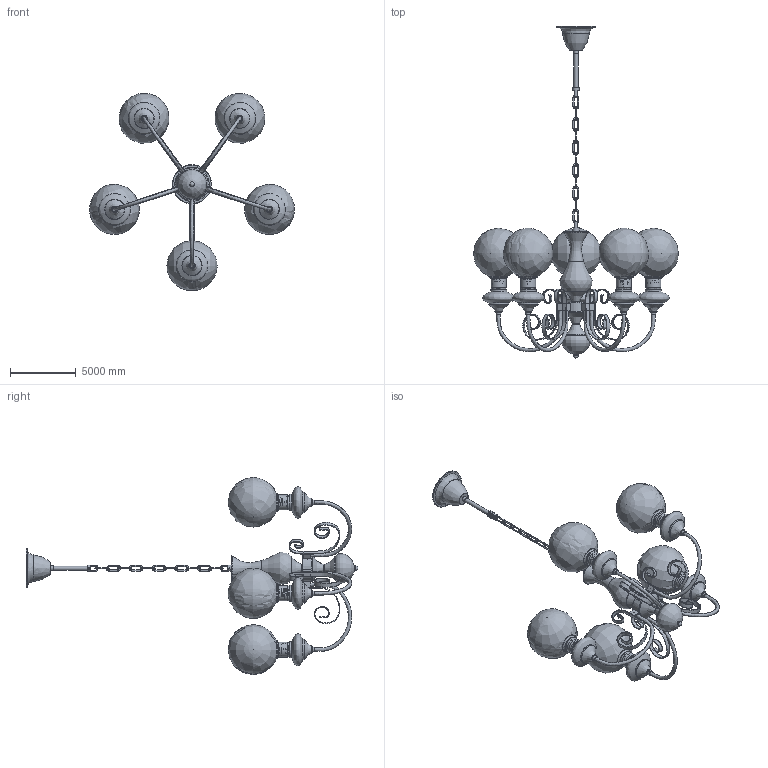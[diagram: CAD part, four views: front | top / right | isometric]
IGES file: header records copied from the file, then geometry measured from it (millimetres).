
Global section: file name: Onyx Chandelier-5heads; native system: AutoCAD 2022 - 简体中文 (Simplified Chinese),62HAuto; preprocessor: desk Translation Framework DWG producer (atf_dwg_producer); organization: unknown; date: 20250928.155539; units: inch
Bounding box: 15568.03 x 25220.37 x 14990.51 mm (x, y, z)
Volume: 44058117597.6 mm3; surface area: 907383458.8 mm2
Topology: 91 solids, 91 shells, 626 faces, 1487 edges, 1022 vertices
Faces by surface type: bspline 626
